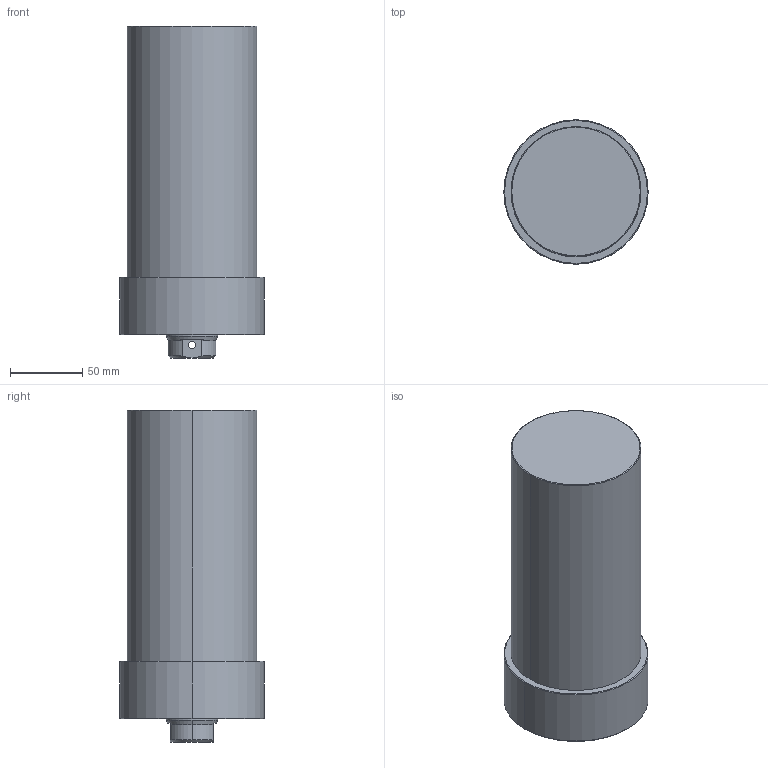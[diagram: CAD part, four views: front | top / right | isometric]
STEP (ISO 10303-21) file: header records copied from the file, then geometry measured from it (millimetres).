
FILE_DESCRIPTION (( 'STEP AP203' ), '1' );
FILE_NAME ('CLLU-090GB-130.STEP', '2020-01-13T05:55:38', ( '' ), ( '' ), 'SwSTEP 2.0', 'SolidWorks 2015', '' );
FILE_SCHEMA (( 'CONFIG_CONTROL_DESIGN' ));
Length unit declared in the file: millimetre
Products named in the file (1): CLLU-090GB-130
Bounding box: 100 x 100 x 230 mm (x, y, z)
Volume: 1414588.4 mm3; surface area: 84797.4 mm2
Topology: 1 solids, 1 shells, 68 faces, 155 edges, 88 vertices
Faces by surface type: cylinder 27, cone 25, plane 10, torus 6
Entity records: 2061 total; most frequent: CARTESIAN_POINT 462, DIRECTION 350, ORIENTED_EDGE 290, AXIS2_PLACEMENT_3D 148, EDGE_CURVE 145, VERTEX_POINT 88, EDGE_LOOP 81, CIRCLE 79
